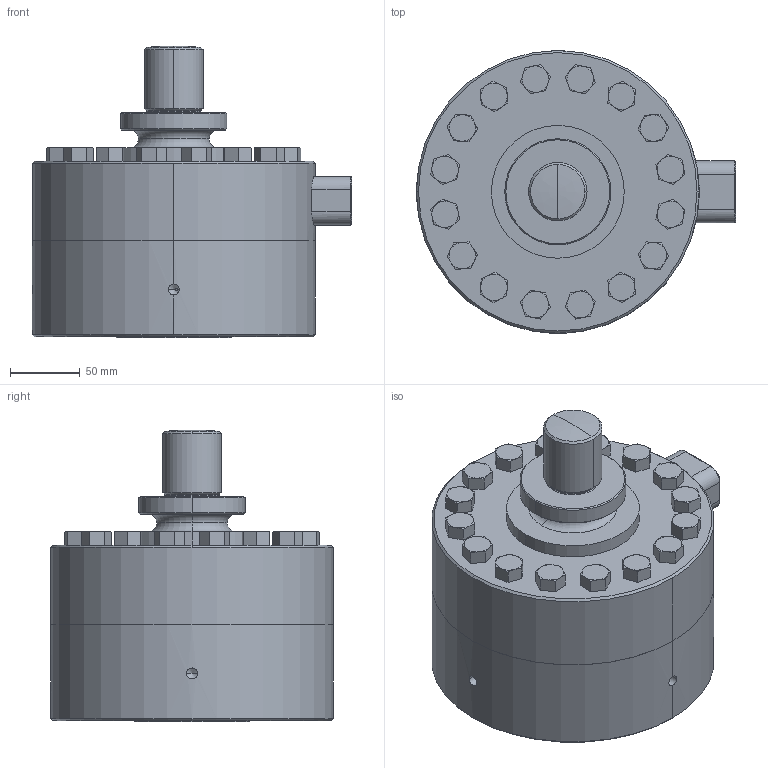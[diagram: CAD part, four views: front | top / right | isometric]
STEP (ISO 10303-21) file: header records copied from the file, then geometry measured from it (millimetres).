
FILE_DESCRIPTION (( 'STEP AP203' ), '1' );
FILE_NAME ('Interface 1830-250KN.STEP', '2012-05-16T16:32:21', ( ' ' ), ( '' ), 'SwSTEP 2.0', 'SolidWorks 2002349', '' );
FILE_SCHEMA (( 'CONFIG_CONTROL_DESIGN' ));
Length unit declared in the file: inch
Products named in the file (1): Interface 1830-250KN
Bounding box: 229.31 x 203.15 x 209.68 mm (x, y, z)
Volume: 4317270.7 mm3; surface area: 187735.3 mm2
Topology: 1 solids, 1 shells, 459 faces, 1111 edges, 687 vertices
Faces by surface type: plane 218, cone 134, cylinder 81, bspline 18, torus 8
Entity records: 14582 total; most frequent: CARTESIAN_POINT 4286, ORIENTED_EDGE 2202, DIRECTION 2001, EDGE_CURVE 1101, AXIS2_PLACEMENT_3D 756, VERTEX_POINT 687, EDGE_LOOP 502, LINE 489
